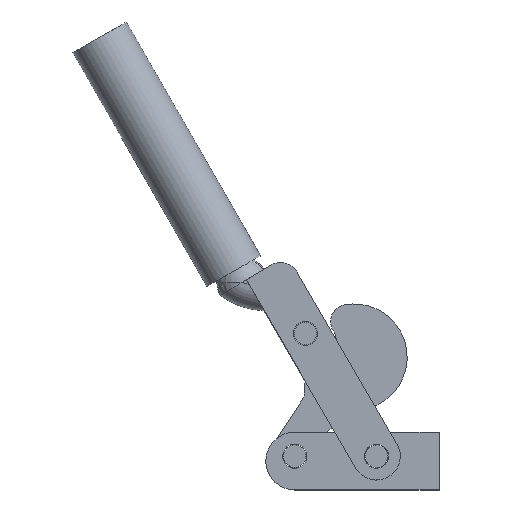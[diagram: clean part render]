
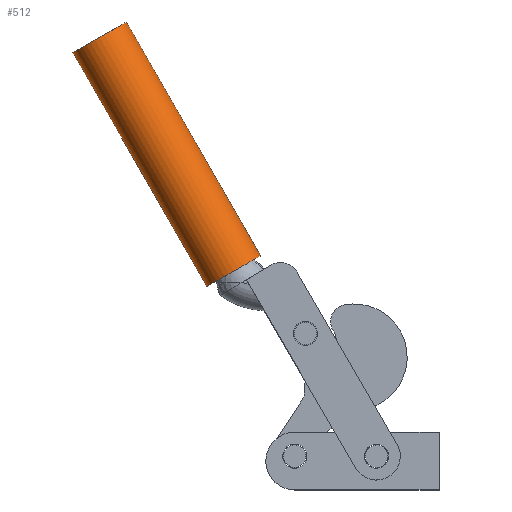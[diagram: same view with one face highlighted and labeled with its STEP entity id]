
A CAD part, top view. The second image highlights one B-rep face of the part: STEP entity #512.
In plain terms, the highlighted cylindrical face has radius 10.185 mm (diameter 20.371 mm), a partial arc.
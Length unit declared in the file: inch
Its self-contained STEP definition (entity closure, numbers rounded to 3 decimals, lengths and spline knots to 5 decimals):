
#512 = ADVANCED_FACE( '', ( #648 ), #649, .T. );
#648 = FACE_OUTER_BOUND( '', #944, .T. );
#649 = CYLINDRICAL_SURFACE( '', #945, 0.401 );
#944 = EDGE_LOOP( '', ( #1271, #1272, #1273, #1274 ) );
#945 = AXIS2_PLACEMENT_3D( '', #1275, #1276, #1277 );
#1271 = ORIENTED_EDGE( '', *, *, #2326, .F. );
#1272 = ORIENTED_EDGE( '', *, *, #2327, .T. );
#1273 = ORIENTED_EDGE( '', *, *, #2328, .F. );
#1274 = ORIENTED_EDGE( '', *, *, #2329, .F. );
#1275 = CARTESIAN_POINT( '', ( -2.66612, 2.84177, 0. ) );
#1276 = DIRECTION( '', ( -0.497, 0.868, 0. ) );
#1277 = DIRECTION( '', ( -0.868, -0.497, 0. ) );
#2326 = EDGE_CURVE( '', #2694, #2695, #2696, .T. );
#2327 = EDGE_CURVE( '', #2694, #2697, #2698, .T. );
#2328 = EDGE_CURVE( '', #2699, #2697, #2700, .T. );
#2329 = EDGE_CURVE( '', #2695, #2699, #2701, .T. );
#2694 = VERTEX_POINT( '', #3288 );
#2695 = VERTEX_POINT( '', #3289 );
#2696 = LINE( '', #3290, #3291 );
#2697 = VERTEX_POINT( '', #3292 );
#2698 = CIRCLE( '', #3293, 0.401 );
#2699 = VERTEX_POINT( '', #3294 );
#2700 = LINE( '', #3295, #3296 );
#2701 = CIRCLE( '', #3297, 0.401 );
#3288 = CARTESIAN_POINT( '', ( -3.014, 2.64232, 0. ) );
#3289 = CARTESIAN_POINT( '', ( -4.75478, 5.67872, 0. ) );
#3290 = CARTESIAN_POINT( '', ( -3.014, 2.64232, 0. ) );
#3291 = VECTOR( '', #4039, 1. );
#3292 = CARTESIAN_POINT( '', ( -2.31823, 3.04121, 0. ) );
#3293 = AXIS2_PLACEMENT_3D( '', #4040, #4041, #4042 );
#3294 = CARTESIAN_POINT( '', ( -4.05901, 6.0776, 0. ) );
#3295 = CARTESIAN_POINT( '', ( -2.31823, 3.04121, 0. ) );
#3296 = VECTOR( '', #4043, 1. );
#3297 = AXIS2_PLACEMENT_3D( '', #4044, #4045, #4046 );
#4039 = DIRECTION( '', ( -0.497, 0.868, 0. ) );
#4040 = CARTESIAN_POINT( '', ( -2.66612, 2.84177, 0. ) );
#4041 = DIRECTION( '', ( -0.497, 0.868, 0. ) );
#4042 = DIRECTION( '', ( -0.868, -0.497, 0. ) );
#4043 = DIRECTION( '', ( 0.497, -0.868, 0. ) );
#4044 = CARTESIAN_POINT( '', ( -4.4069, 5.87816, 0. ) );
#4045 = DIRECTION( '', ( -0.497, 0.868, 0. ) );
#4046 = DIRECTION( '', ( -0.868, -0.497, 0. ) );
